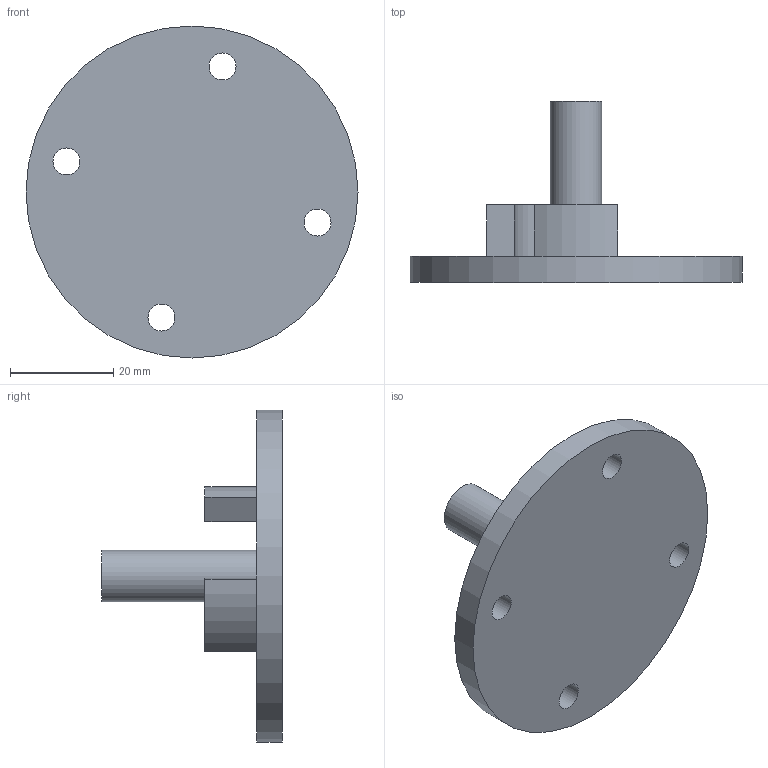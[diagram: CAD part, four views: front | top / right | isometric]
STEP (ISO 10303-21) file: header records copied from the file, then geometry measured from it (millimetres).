
FILE_DESCRIPTION(/* description */ (''),/* implementation_level */ '2;1');
FILE_NAME(/* name */ 'MotorSide InnerCoupler_.step',/* time_stamp */ '2024-08-31T16:25:19-04:00',/* author */ (''),/* organization */ (''),/* preprocessor_version */ 'ST-DEVELOPER v20',/* originating_system */ 'Autodesk Translation Framework v13.14.0.145',/* authorisation */ '');
FILE_SCHEMA (('AUTOMOTIVE_DESIGN { 1 0 10303 214 3 1 1 }'));
Length unit declared in the file: millimetre
Products named in the file (1): MotorSide_InnerCoupler
Bounding box: 64.25 x 35 x 64.25 mm (x, y, z)
Volume: 19296.4 mm3; surface area: 9697.5 mm2
Topology: 1 solids, 1 shells, 21 faces, 47 edges, 31 vertices
Faces by surface type: cylinder 11, plane 9, cone 1
Full cylindrical faces by diameter (mm): 4.496 x1, 5.22 x4, 10 x1, 64.25 x1
Entity records: 639 total; most frequent: DIRECTION 112, CARTESIAN_POINT 99, ORIENTED_EDGE 92, EDGE_CURVE 46, AXIS2_PLACEMENT_3D 44, EDGE_LOOP 33, VERTEX_POINT 31, LINE 24
